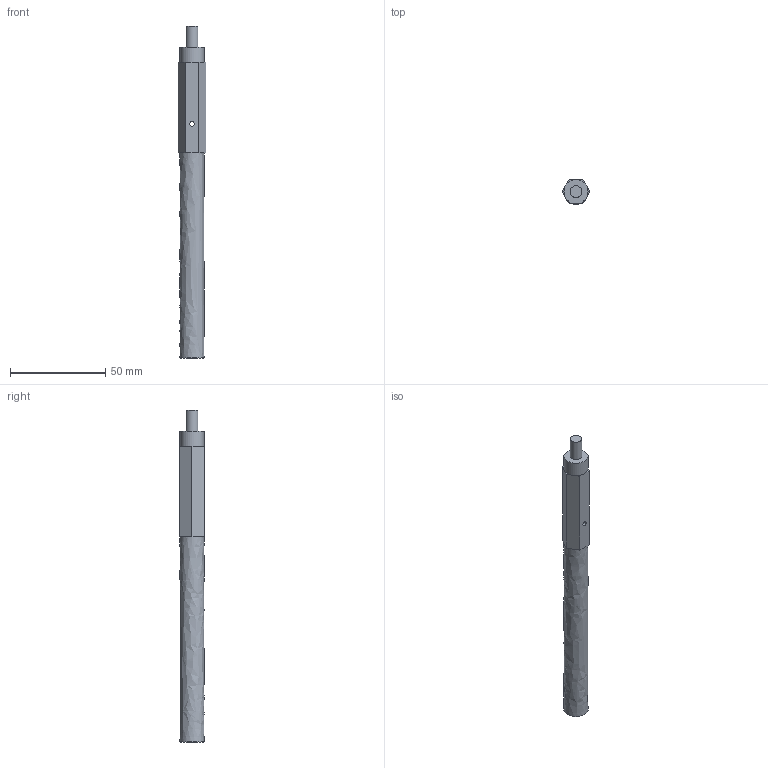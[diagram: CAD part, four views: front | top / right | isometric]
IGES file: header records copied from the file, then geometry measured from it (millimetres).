
Global section: file name: No Iges File Name specified; native system: AutoDesk Inventor R6.0; preprocessor: AutoDesk Inventor Iges Exporter R6.0; author: No Author specified; organization: No Organization specified; date: 20080103.172806; units: inch
Bounding box: 14.66 x 12.7 x 174.69 mm (x, y, z)
Surface area: 7934.5 mm2 (no closed solid volume)
Topology: 0 solids, 0 shells, 33 faces, 142 edges, 135 vertices
Faces by surface type: plane 24, revolution 6, bspline 3
